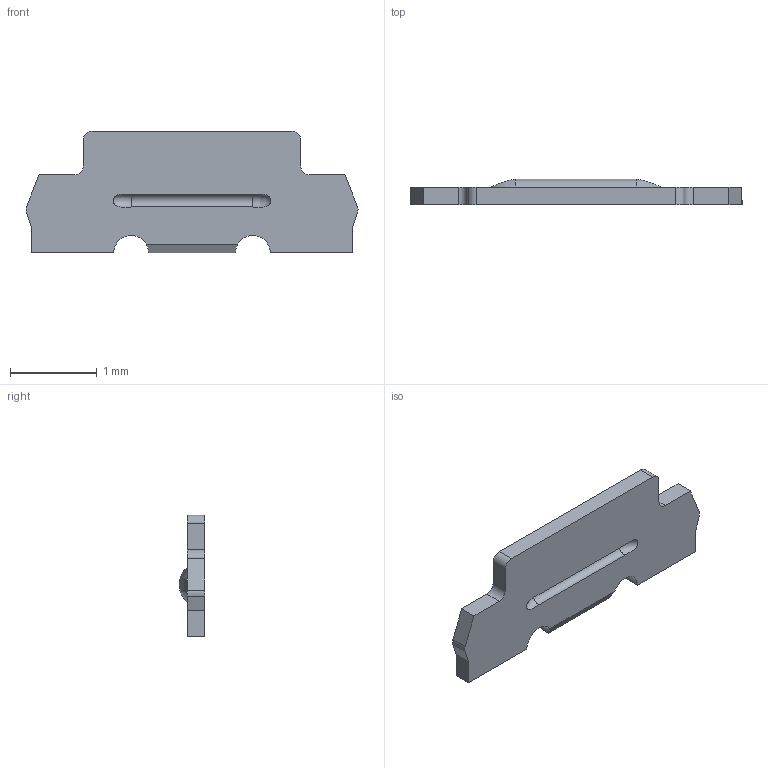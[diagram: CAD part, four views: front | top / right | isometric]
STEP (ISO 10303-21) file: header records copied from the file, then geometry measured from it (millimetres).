
FILE_DESCRIPTION((''),'2;1');
FILE_NAME('T-DSC20-800X00_1_PRT','2008-06-30T',('GRA'),(''),'PRO/ENGINEER BY PARAMETRIC TECHNOLOGY CORPORATION, 2006170','PRO/ENGINEER BY PARAMETRIC TECHNOLOGY CORPORATION, 2006170','');
FILE_SCHEMA(('CONFIG_CONTROL_DESIGN'));
Length unit declared in the file: millimetre
Products named in the file (1): T-DSC20-800X00_1_PRT
Bounding box: 3.82 x 0.29 x 1.4 mm (x, y, z)
Volume: 0.9 mm3; surface area: 11.2 mm2
Topology: 1 solids, 1 shells, 32 faces, 90 edges, 62 vertices
Faces by surface type: plane 18, cylinder 10, bspline 2, torus 2
Entity records: 1225 total; most frequent: CARTESIAN_POINT 353, ORIENTED_EDGE 180, DIRECTION 164, EDGE_CURVE 90, VERTEX_POINT 62, VECTOR 56, LINE 56, AXIS2_PLACEMENT_3D 54
